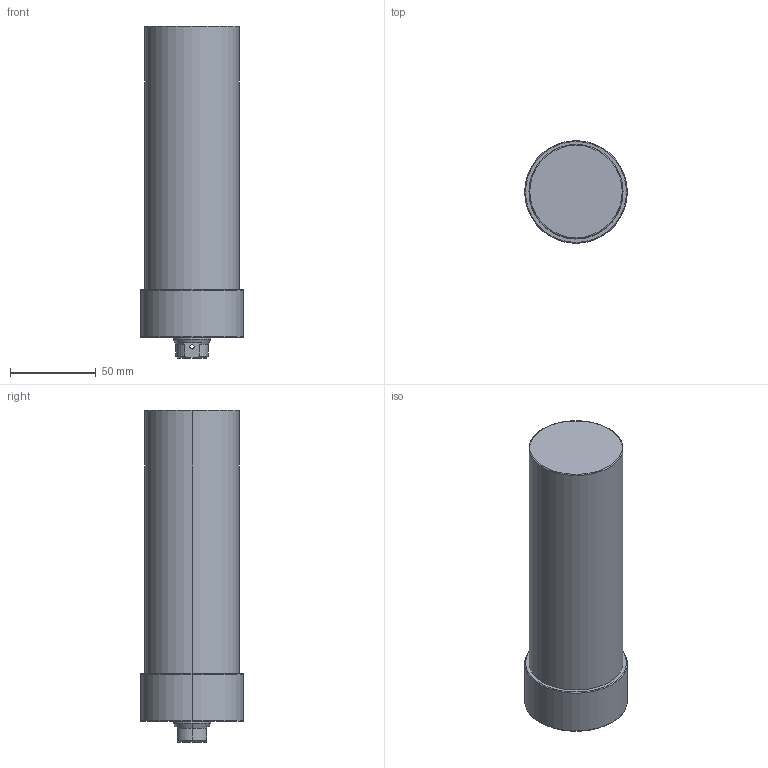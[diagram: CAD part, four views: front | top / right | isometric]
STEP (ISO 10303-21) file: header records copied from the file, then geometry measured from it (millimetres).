
FILE_DESCRIPTION (( 'STEP AP203' ), '1' );
FILE_NAME ('CLLU-055GB-125.STEP', '2020-01-06T07:23:43', ( '' ), ( '' ), 'SwSTEP 2.0', 'SolidWorks 2015', '' );
FILE_SCHEMA (( 'CONFIG_CONTROL_DESIGN' ));
Length unit declared in the file: millimetre
Products named in the file (1): CLLU-055GB-125
Bounding box: 60 x 60 x 194 mm (x, y, z)
Volume: 445336.6 mm3; surface area: 39980.4 mm2
Topology: 1 solids, 1 shells, 68 faces, 155 edges, 88 vertices
Faces by surface type: cylinder 27, cone 25, plane 10, torus 6
Entity records: 2021 total; most frequent: CARTESIAN_POINT 422, DIRECTION 350, ORIENTED_EDGE 290, AXIS2_PLACEMENT_3D 148, EDGE_CURVE 145, VERTEX_POINT 88, EDGE_LOOP 81, CIRCLE 79
